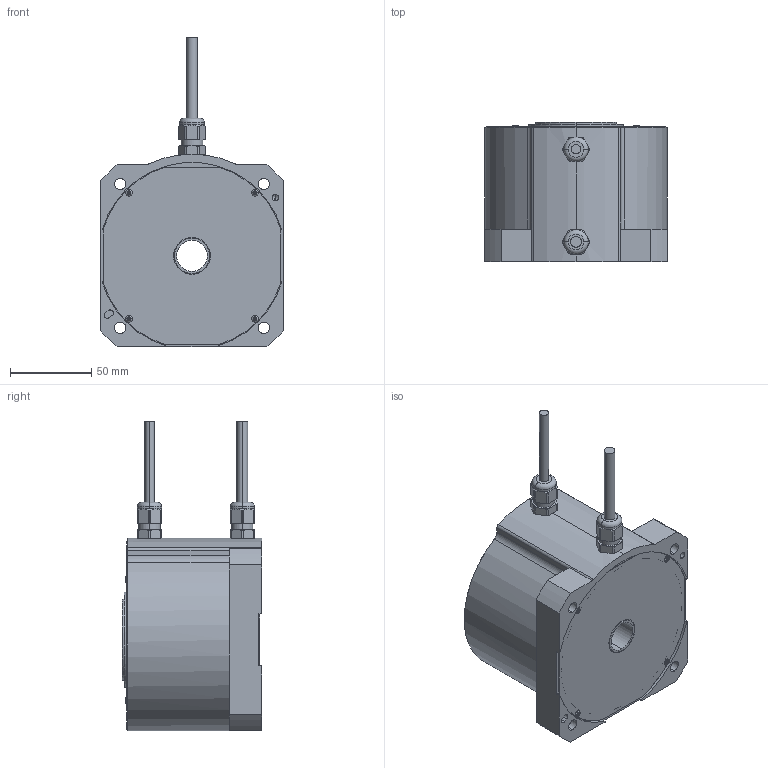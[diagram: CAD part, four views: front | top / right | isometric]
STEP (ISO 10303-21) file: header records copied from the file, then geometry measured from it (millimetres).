
FILE_DESCRIPTION (( 'STEP AP214' ), '1' );
FILE_NAME ('BZA01820.STEP', '2024-03-27T07:18:37', ( '' ), ( '' ), 'SwSTEP 2.0', 'SolidWorks 2023', '' );
FILE_SCHEMA (( 'AUTOMOTIVE_DESIGN' ));
Length unit declared in the file: millimetre
Products named in the file (1): BZA01820
Bounding box: 112 x 85.8 x 190.5 mm (x, y, z)
Volume: 275253.1 mm3; surface area: 128828.7 mm2
Topology: 14 solids, 14 shells, 623 faces, 1666 edges, 1071 vertices
Faces by surface type: cylinder 252, plane 182, cone 94, bspline 67, torus 28
Entity records: 22608 total; most frequent: CARTESIAN_POINT 7494, ORIENTED_EDGE 3224, DIRECTION 2947, EDGE_CURVE 1612, AXIS2_PLACEMENT_3D 1165, VERTEX_POINT 1071, EDGE_LOOP 713, ADVANCED_FACE 623
